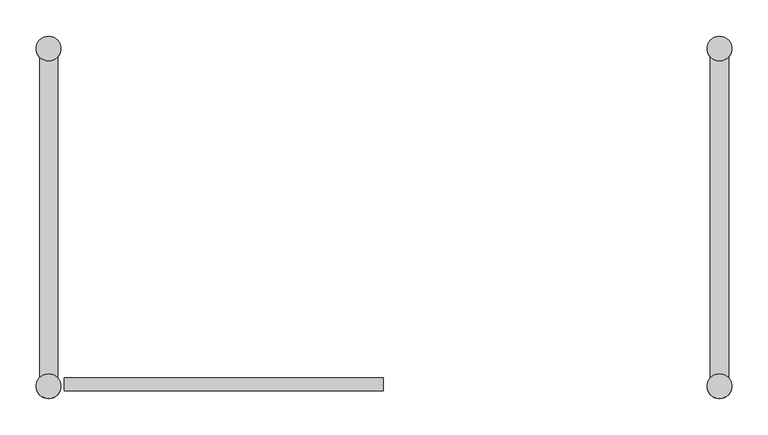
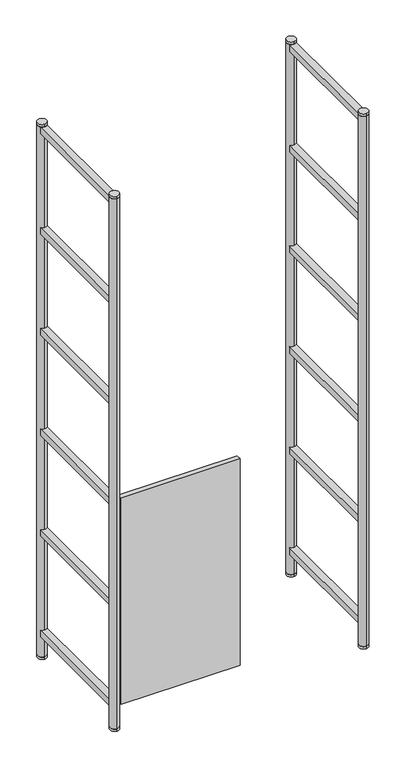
"""IFC4 building model written with IfcOpenShell, lengths in millimetres: furniture geometry, MAKR_TEMPLATE_900mmL1 : MAKR_TEMPLATE_900mmL 2."""

import ifcopenshell
import ifcopenshell.guid

model = None  # the IFC model being written
_history = None  # IfcOwnerHistory: only IFC2X3 demands one
_inside = {}  # id of a spatial element -> (the spatial element, [elements in it])
_under = {}  # id of a project, library or spatial element -> (it, [spatial elements below it])
_declared = {}  # id of a project -> (the project, [libraries it declares])
_typed = {}  # id of a type object -> (the type object, [elements of that type])
_made_of = {}  # id of a material, layer set ... -> (it, [elements and type objects made of it])


def new_model(schema):
    """Start an empty IFC model of exactly this schema.

    Asked for "IFC4X3", IfcOpenShell would pick the latest addendum, in which some entities
    have other attributes; the version numbers below select the first issue.
    IFC2X3 requires an IfcOwnerHistory on every rooted entity: one is made here for all.
    """
    global model, _history
    if schema == "IFC4X3":
        model = ifcopenshell.file(schema_version=(4, 3, 0, 0))
    else:
        model = ifcopenshell.file(schema=schema)
    _inside.clear()
    _under.clear()
    _declared.clear()
    _typed.clear()
    _made_of.clear()
    _history = None
    if model.schema == "IFC2X3":
        org = make("IfcOrganization", Name="unknown")
        user = make(
            "IfcPersonAndOrganization",
            ThePerson=make("IfcPerson", FamilyName="unknown"),
            TheOrganization=org,
        )
        app = make(
            "IfcApplication",
            ApplicationDeveloper=org,
            Version="unknown",
            ApplicationFullName="unknown",
            ApplicationIdentifier="unknown",
        )
        _history = make(
            "IfcOwnerHistory",
            OwningUser=user,
            OwningApplication=app,
            ChangeAction="ADDED",
            CreationDate=0,
        )
    return model


def make(cls, **values):
    """One entity of the class cls with the attributes given. An attribute that is None is left unset."""
    return model.create_entity(
        cls, **{name: value for name, value in values.items() if value is not None}
    )


def rooted(cls, **values):
    """An entity with a GlobalId (a new one), such as an element, a storey or a relation."""
    return make(cls, GlobalId=ifcopenshell.guid.new(), OwnerHistory=_history, **values)


def si_unit(unit_type, name, prefix=None):
    """IfcSIUnit, for example si_unit("LENGTHUNIT", "METRE", prefix="MILLI")."""
    return make("IfcSIUnit", UnitType=unit_type, Prefix=prefix, Name=name)


def assignment(units):
    """IfcUnitAssignment: the units of a project."""
    return None if units is None else make("IfcUnitAssignment", Units=units)


def point(xyz):
    """IfcCartesianPoint."""
    return None if xyz is None else make("IfcCartesianPoint", Coordinates=xyz)


def direction(xyz):
    """IfcDirection."""
    return None if xyz is None else make("IfcDirection", DirectionRatios=xyz)


def frame(location, z_axis=None, x_axis=None):
    """IfcAxis2Placement3D, a coordinate frame: its origin and axes. An axis left out is left unset."""
    return make(
        "IfcAxis2Placement3D",
        Location=point(location),
        Axis=direction(z_axis),
        RefDirection=direction(x_axis),
    )


def frame_2d(location, x_axis=None):
    """IfcAxis2Placement2D, a coordinate frame in the plane: its origin and x axis."""
    return make(
        "IfcAxis2Placement2D", Location=point(location), RefDirection=direction(x_axis)
    )


def origin():
    """The frame at (0, 0, 0) with its axes left unset."""
    return frame((0.0, 0.0, 0.0))


def origin_with_axes():
    """The frame at (0, 0, 0) with the z axis (0, 0, 1) and the x axis (1, 0, 0) written out."""
    return frame((0.0, 0.0, 0.0), z_axis=(0.0, 0.0, 1.0), x_axis=(1.0, 0.0, 0.0))


def place(relative_to, where):
    """IfcLocalPlacement: puts the frame where relative to a parent placement (None: the world)."""
    return make(
        "IfcLocalPlacement", PlacementRelTo=relative_to, RelativePlacement=where
    )


def context(
    kind, dimensions, precision=None, world=None, true_north=None, identifier=None
):
    """IfcGeometricRepresentationContext, for example the 3D "Model" context."""
    return make(
        "IfcGeometricRepresentationContext",
        ContextIdentifier=identifier,
        ContextType=kind,
        CoordinateSpaceDimension=dimensions,
        Precision=precision,
        WorldCoordinateSystem=world,
        TrueNorth=true_north,
    )


def project(units=None, contexts=None):
    """IfcProject with its units and contexts."""
    return rooted(
        "IfcProject",
        Name="project",
        RepresentationContexts=contexts,
        UnitsInContext=assignment(units),
    )


def spatial(cls, under=None, at=None, **own):
    """A site, building, storey or space (cls), placed at a placement, below another one or the project."""
    s = rooted(cls, ObjectPlacement=at, **own)
    if under is not None:
        _under.setdefault(under.id(), (under, []))[1].append(s)
    return s


def polyline(points):
    """IfcPolyline through the points."""
    return make("IfcPolyline", Points=[point(p) for p in points])


def circle_curve(where, radius):
    """IfcCircle in the frame where."""
    return make("IfcCircle", Position=where, Radius=radius)


def trimmed(basis, trim1, trim2, sense, master):
    """IfcTrimmedCurve: the piece of a basis curve between two trims."""
    return make(
        "IfcTrimmedCurve",
        BasisCurve=basis,
        Trim1=trim1,
        Trim2=trim2,
        SenseAgreement=sense,
        MasterRepresentation=master,
    )


def segment(curve, same_sense, transition):
    """IfcCompositeCurveSegment."""
    return make(
        "IfcCompositeCurveSegment",
        Transition=transition,
        SameSense=same_sense,
        ParentCurve=curve,
    )


def composite_curve(segments, self_intersect=None):
    """IfcCompositeCurve: segments joined end to end."""
    return make("IfcCompositeCurve", Segments=segments, SelfIntersect=self_intersect)


def outline(outer, holes=None, kind="AREA"):
    """IfcArbitraryClosedProfileDef: a profile drawn as a closed curve; with holes, ...WithVoids."""
    if holes is None:
        return make("IfcArbitraryClosedProfileDef", ProfileType=kind, OuterCurve=outer)
    return make(
        "IfcArbitraryProfileDefWithVoids",
        ProfileType=kind,
        OuterCurve=outer,
        InnerCurves=holes,
    )


def extrude(swept, where, along, depth):
    """IfcExtrudedAreaSolid: the profile swept, set in the frame where, extruded along a direction by depth."""
    return make(
        "IfcExtrudedAreaSolid",
        SweptArea=swept,
        Position=where,
        ExtrudedDirection=direction(along),
        Depth=depth,
    )


def shape(context_of_items, identifier, shape_type, items):
    """IfcShapeRepresentation: the items that make up one representation, for example the "Body"."""
    return make(
        "IfcShapeRepresentation",
        ContextOfItems=context_of_items,
        RepresentationIdentifier=identifier,
        RepresentationType=shape_type,
        Items=items,
    )


def source(mapping_origin, context_of_items, identifier, shape_type, items):
    """IfcRepresentationMap: a shape defined once, which mapped items show again and again."""
    return make(
        "IfcRepresentationMap",
        MappingOrigin=mapping_origin,
        MappedRepresentation=shape(context_of_items, identifier, shape_type, items),
    )


def transform(
    local_origin,
    x_axis=None,
    y_axis=None,
    z_axis=None,
    scale=None,
    scale2=None,
    scale3=None,
    uniform=True,
):
    """IfcCartesianTransformationOperator3D, or its non-uniform kind. x_axis, y_axis, z_axis: its Axis1, 2, 3."""
    if uniform:
        return make(
            "IfcCartesianTransformationOperator3D",
            Axis1=direction(x_axis),
            Axis2=direction(y_axis),
            LocalOrigin=point(local_origin),
            Scale=scale,
            Axis3=direction(z_axis),
        )
    return make(
        "IfcCartesianTransformationOperator3DnonUniform",
        Axis1=direction(x_axis),
        Axis2=direction(y_axis),
        LocalOrigin=point(local_origin),
        Scale=scale,
        Axis3=direction(z_axis),
        Scale2=scale2,
        Scale3=scale3,
    )


def mapped(mapping_source, mapping_target):
    """IfcMappedItem: shows the shape of a source again, moved by a transform."""
    return make(
        "IfcMappedItem", MappingSource=mapping_source, MappingTarget=mapping_target
    )


def made_of(thing, what):
    """Note that an element or type object is made of a material, layer set ...; save() writes the relation."""
    if what is not None:
        _made_of.setdefault(what.id(), (what, []))[1].append(thing)
    return thing


def element(
    cls,
    number,
    at=None,
    inside=None,
    cuts=None,
    type_object=None,
    material=None,
    context=None,
    identifier="Body",
    shape_type=None,
    held_by="IfcProductDefinitionShape",
    body=None,
    shapes=None,
    **own,
):
    """One element of the class cls, such as IfcWall. Its Tag is "e" and its number.

    at: its placement. inside: the storey or other place that contains it. cuts: it is an
    opening in that element (IfcRelVoidsElement). A single representation is given by context,
    identifier, shape_type and body (its items); several are given by shapes. held_by: the class
    of the entity that holds the representations. save() writes the other relations.
    """
    e = rooted(cls, Tag="e%d" % number, ObjectPlacement=at, **own)
    if body is not None:
        shapes = [shape(context, identifier, shape_type, body)]
    if shapes is not None:
        e.Representation = make(held_by, Representations=shapes)
    if inside is not None:
        _inside.setdefault(inside.id(), (inside, []))[1].append(e)
    if cuts is not None:
        rooted(
            "IfcRelVoidsElement", RelatingBuildingElement=cuts, RelatedOpeningElement=e
        )
    if type_object is not None:
        _typed.setdefault(type_object.id(), (type_object, []))[1].append(e)
    return made_of(e, material)


def aggregate(whole, parts):
    """IfcRelAggregates: a whole, such as a stair, and the parts it consists of."""
    return rooted("IfcRelAggregates", RelatingObject=whole, RelatedObjects=parts)


def save(model, path):
    """Write the relations noted so far, then the file.

    IfcRelAggregates (storeys below a building ...), IfcRelContainedInSpatialStructure (elements
    in a storey), IfcRelDefinesByType, IfcRelAssociatesMaterial and IfcRelDeclares: one each for
    every whole, place, type object, material and project.
    """
    for whole, parts in _under.values():
        aggregate(whole, parts)
    for where, things in _inside.values():
        rooted(
            "IfcRelContainedInSpatialStructure",
            RelatedElements=things,
            RelatingStructure=where,
        )
    for kind, things in _typed.values():
        rooted("IfcRelDefinesByType", RelatedObjects=things, RelatingType=kind)
    for what, things in _made_of.values():
        rooted("IfcRelAssociatesMaterial", RelatedObjects=things, RelatingMaterial=what)
    for by, libraries in _declared.values():
        rooted("IfcRelDeclares", RelatingContext=by, RelatedDefinitions=libraries)
    model.write(path)


def furniture_b6aa44ca(model_context):
    return source(origin(), model_context, "Body", "SweptSolid", [
        extrude(outline(polyline([(-441.0, -221.4782814), (-1.0, -221.4782814), (-1.0, -239.4782814), (-441.0, -239.4782814), (-441.0, -221.4782814)])), frame((0.0, 0.0, 91.0), z_axis=(0.0, 0.0, 1.0), x_axis=(1.0, 0.0, 0.0)), (0.0, 0.0, 1.0), 811.0),
        extrude(outline(composite_curve([segment(polyline([(475.0, 221.4782814), (475.0, -221.4782814)]), True, "CONTINUOUS"), segment(trimmed(circle_curve(frame_2d((462.5, -233.0)), 17.0), [point((475.0, -221.4782814))], [point((450.0, -221.4782814))], True, "CARTESIAN"), True, "CONTINUOUS"), segment(polyline([(450.0, -221.4782814), (450.0, 221.4782814)]), True, "CONTINUOUS"), segment(trimmed(circle_curve(frame_2d((462.5, 233.0)), 17.0), [point((450.0, 221.4782814))], [point((475.0, 221.4782814))], True, "CARTESIAN"), True, "CONTINUOUS")], self_intersect=False)), frame((0.0, 0.0, 2064.0), z_axis=(0.0, 0.0, 1.0), x_axis=(1.0, 0.0, 0.0)), (0.0, 0.0, 1.0), 25.0),
        extrude(outline(composite_curve([segment(polyline([(475.0, 221.4782814), (475.0, -221.4782814)]), True, "CONTINUOUS"), segment(trimmed(circle_curve(frame_2d((462.5, -233.0)), 17.0), [point((475.0, -221.4782814))], [point((450.0, -221.4782814))], True, "CARTESIAN"), True, "CONTINUOUS"), segment(polyline([(450.0, -221.4782814), (450.0, 221.4782814)]), True, "CONTINUOUS"), segment(trimmed(circle_curve(frame_2d((462.5, 233.0)), 17.0), [point((450.0, 221.4782814))], [point((475.0, 221.4782814))], True, "CARTESIAN"), True, "CONTINUOUS")], self_intersect=False)), frame((0.0, 0.0, 1669.0), z_axis=(0.0, 0.0, 1.0), x_axis=(1.0, 0.0, 0.0)), (0.0, 0.0, 1.0), 25.0),
        extrude(outline(composite_curve([segment(polyline([(475.0, 221.4782814), (475.0, -221.4782814)]), True, "CONTINUOUS"), segment(trimmed(circle_curve(frame_2d((462.5, -233.0)), 17.0), [point((475.0, -221.4782814))], [point((450.0, -221.4782814))], True, "CARTESIAN"), True, "CONTINUOUS"), segment(polyline([(450.0, -221.4782814), (450.0, 221.4782814)]), True, "CONTINUOUS"), segment(trimmed(circle_curve(frame_2d((462.5, 233.0)), 17.0), [point((450.0, 221.4782814))], [point((475.0, 221.4782814))], True, "CARTESIAN"), True, "CONTINUOUS")], self_intersect=False)), frame((0.0, 0.0, 1274.0), z_axis=(0.0, 0.0, 1.0), x_axis=(1.0, 0.0, 0.0)), (0.0, 0.0, 1.0), 25.0),
        extrude(outline(composite_curve([segment(polyline([(475.0, 221.4782814), (475.0, -221.4782814)]), True, "CONTINUOUS"), segment(trimmed(circle_curve(frame_2d((462.5, -233.0)), 17.0), [point((475.0, -221.4782814))], [point((450.0, -221.4782814))], True, "CARTESIAN"), True, "CONTINUOUS"), segment(polyline([(450.0, -221.4782814), (450.0, 221.4782814)]), True, "CONTINUOUS"), segment(trimmed(circle_curve(frame_2d((462.5, 233.0)), 17.0), [point((450.0, 221.4782814))], [point((475.0, 221.4782814))], True, "CARTESIAN"), True, "CONTINUOUS")], self_intersect=False)), frame((0.0, 0.0, 879.0), z_axis=(0.0, 0.0, 1.0), x_axis=(1.0, 0.0, 0.0)), (0.0, 0.0, 1.0), 25.0),
        extrude(outline(composite_curve([segment(polyline([(475.0, 221.4782814), (475.0, -221.4782814)]), True, "CONTINUOUS"), segment(trimmed(circle_curve(frame_2d((462.5, -233.0)), 17.0), [point((475.0, -221.4782814))], [point((450.0, -221.4782814))], True, "CARTESIAN"), True, "CONTINUOUS"), segment(polyline([(450.0, -221.4782814), (450.0, 221.4782814)]), True, "CONTINUOUS"), segment(trimmed(circle_curve(frame_2d((462.5, 233.0)), 17.0), [point((450.0, 221.4782814))], [point((475.0, 221.4782814))], True, "CARTESIAN"), True, "CONTINUOUS")], self_intersect=False)), frame((0.0, 0.0, 484.0), z_axis=(0.0, 0.0, 1.0), x_axis=(1.0, 0.0, 0.0)), (0.0, 0.0, 1.0), 25.0),
        extrude(outline(composite_curve([segment(polyline([(475.0, 221.4782814), (475.0, -221.4782814)]), True, "CONTINUOUS"), segment(trimmed(circle_curve(frame_2d((462.5, -233.0)), 17.0), [point((475.0, -221.4782814))], [point((450.0, -221.4782814))], True, "CARTESIAN"), True, "CONTINUOUS"), segment(polyline([(450.0, -221.4782814), (450.0, 221.4782814)]), True, "CONTINUOUS"), segment(trimmed(circle_curve(frame_2d((462.5, 233.0)), 17.0), [point((450.0, 221.4782814))], [point((475.0, 221.4782814))], True, "CARTESIAN"), True, "CONTINUOUS")], self_intersect=False)), frame((0.0, 0.0, 89.0), z_axis=(0.0, 0.0, 1.0), x_axis=(1.0, 0.0, 0.0)), (0.0, 0.0, 1.0), 25.0),
        extrude(outline(composite_curve([segment(trimmed(circle_curve(frame_2d((462.5, -233.0)), 17.0), [point((462.5, -216.0))], [point((462.5, -250.0))], False, "CARTESIAN"), True, "CONTINUOUS"), segment(trimmed(circle_curve(frame_2d((462.5, -233.0)), 17.0), [point((462.5, -250.0))], [point((462.5, -216.0))], False, "CARTESIAN"), True, "CONTINUOUS")], self_intersect=False)), frame((0.0, 0.0, 2091.0), z_axis=(0.0, 0.0, 1.0), x_axis=(1.0, 0.0, 0.0)), (0.0, 0.0, 1.0), 9.0),
        extrude(outline(composite_curve([segment(trimmed(circle_curve(frame_2d((462.5, -233.0)), 17.0), [point((462.5, -216.0))], [point((462.5, -250.0))], False, "CARTESIAN"), True, "CONTINUOUS"), segment(trimmed(circle_curve(frame_2d((462.5, -233.0)), 17.0), [point((462.5, -250.0))], [point((462.5, -216.0))], False, "CARTESIAN"), True, "CONTINUOUS")], self_intersect=False)), origin_with_axes(), (0.0, 0.0, 1.0), 9.0),
        extrude(outline(composite_curve([segment(trimmed(circle_curve(frame_2d((462.5, -233.0)), 17.0), [point((462.5, -216.0))], [point((462.5, -250.0))], False, "CARTESIAN"), True, "CONTINUOUS"), segment(trimmed(circle_curve(frame_2d((462.5, -233.0)), 17.0), [point((462.5, -250.0))], [point((462.5, -216.0))], False, "CARTESIAN"), True, "CONTINUOUS")], self_intersect=False)), frame((0.0, 0.0, 9.0), z_axis=(0.0, 0.0, 1.0), x_axis=(1.0, 0.0, 0.0)), (0.0, 0.0, 1.0), 2082.0),
        extrude(outline(composite_curve([segment(trimmed(circle_curve(frame_2d((462.5, 233.0)), 17.0), [point((462.5, 216.0))], [point((462.5, 250.0))], False, "CARTESIAN"), True, "CONTINUOUS"), segment(trimmed(circle_curve(frame_2d((462.5, 233.0)), 17.0), [point((462.5, 250.0))], [point((462.5, 216.0))], False, "CARTESIAN"), True, "CONTINUOUS")], self_intersect=False)), frame((0.0, 0.0, 2091.0), z_axis=(0.0, 0.0, 1.0), x_axis=(1.0, 0.0, 0.0)), (0.0, 0.0, 1.0), 9.0),
        extrude(outline(composite_curve([segment(trimmed(circle_curve(frame_2d((462.5, 233.0)), 17.0), [point((462.5, 216.0))], [point((462.5, 250.0))], False, "CARTESIAN"), True, "CONTINUOUS"), segment(trimmed(circle_curve(frame_2d((462.5, 233.0)), 17.0), [point((462.5, 250.0))], [point((462.5, 216.0))], False, "CARTESIAN"), True, "CONTINUOUS")], self_intersect=False)), origin_with_axes(), (0.0, 0.0, 1.0), 9.0),
        extrude(outline(composite_curve([segment(trimmed(circle_curve(frame_2d((462.5, 233.0)), 17.0), [point((462.5, 216.0))], [point((462.5, 250.0))], False, "CARTESIAN"), True, "CONTINUOUS"), segment(trimmed(circle_curve(frame_2d((462.5, 233.0)), 17.0), [point((462.5, 250.0))], [point((462.5, 216.0))], False, "CARTESIAN"), True, "CONTINUOUS")], self_intersect=False)), frame((0.0, 0.0, 9.0), z_axis=(0.0, 0.0, 1.0), x_axis=(1.0, 0.0, 0.0)), (0.0, 0.0, 1.0), 2082.0),
        extrude(outline(composite_curve([segment(trimmed(circle_curve(frame_2d((-462.5, 233.0)), 17.0), [point((-475.0, 221.4782814))], [point((-450.0, 221.4782814))], True, "CARTESIAN"), True, "CONTINUOUS"), segment(polyline([(-450.0, 221.4782814), (-450.0, -221.4782814)]), True, "CONTINUOUS"), segment(trimmed(circle_curve(frame_2d((-462.5, -233.0)), 17.0), [point((-450.0, -221.4782814))], [point((-475.0, -221.4782814))], True, "CARTESIAN"), True, "CONTINUOUS"), segment(polyline([(-475.0, -221.4782814), (-475.0, 221.4782814)]), True, "CONTINUOUS")], self_intersect=False)), frame((0.0, 0.0, 2064.0), z_axis=(0.0, 0.0, 1.0), x_axis=(1.0, 0.0, 0.0)), (0.0, 0.0, 1.0), 25.0),
        extrude(outline(composite_curve([segment(trimmed(circle_curve(frame_2d((-462.5, 233.0)), 17.0), [point((-475.0, 221.4782814))], [point((-450.0, 221.4782814))], True, "CARTESIAN"), True, "CONTINUOUS"), segment(polyline([(-450.0, 221.4782814), (-450.0, -221.4782814)]), True, "CONTINUOUS"), segment(trimmed(circle_curve(frame_2d((-462.5, -233.0)), 17.0), [point((-450.0, -221.4782814))], [point((-475.0, -221.4782814))], True, "CARTESIAN"), True, "CONTINUOUS"), segment(polyline([(-475.0, -221.4782814), (-475.0, 221.4782814)]), True, "CONTINUOUS")], self_intersect=False)), frame((0.0, 0.0, 1669.0), z_axis=(0.0, 0.0, 1.0), x_axis=(1.0, 0.0, 0.0)), (0.0, 0.0, 1.0), 25.0),
        extrude(outline(composite_curve([segment(trimmed(circle_curve(frame_2d((-462.5, 233.0)), 17.0), [point((-475.0, 221.4782814))], [point((-450.0, 221.4782814))], True, "CARTESIAN"), True, "CONTINUOUS"), segment(polyline([(-450.0, 221.4782814), (-450.0, -221.4782814)]), True, "CONTINUOUS"), segment(trimmed(circle_curve(frame_2d((-462.5, -233.0)), 17.0), [point((-450.0, -221.4782814))], [point((-475.0, -221.4782814))], True, "CARTESIAN"), True, "CONTINUOUS"), segment(polyline([(-475.0, -221.4782814), (-475.0, 221.4782814)]), True, "CONTINUOUS")], self_intersect=False)), frame((0.0, 0.0, 1274.0), z_axis=(0.0, 0.0, 1.0), x_axis=(1.0, 0.0, 0.0)), (0.0, 0.0, 1.0), 25.0),
        extrude(outline(composite_curve([segment(trimmed(circle_curve(frame_2d((-462.5, 233.0)), 17.0), [point((-475.0, 221.4782814))], [point((-450.0, 221.4782814))], True, "CARTESIAN"), True, "CONTINUOUS"), segment(polyline([(-450.0, 221.4782814), (-450.0, -221.4782814)]), True, "CONTINUOUS"), segment(trimmed(circle_curve(frame_2d((-462.5, -233.0)), 17.0), [point((-450.0, -221.4782814))], [point((-475.0, -221.4782814))], True, "CARTESIAN"), True, "CONTINUOUS"), segment(polyline([(-475.0, -221.4782814), (-475.0, 221.4782814)]), True, "CONTINUOUS")], self_intersect=False)), frame((0.0, 0.0, 879.0), z_axis=(0.0, 0.0, 1.0), x_axis=(1.0, 0.0, 0.0)), (0.0, 0.0, 1.0), 25.0),
        extrude(outline(composite_curve([segment(trimmed(circle_curve(frame_2d((-462.5, 233.0)), 17.0), [point((-475.0, 221.4782814))], [point((-450.0, 221.4782814))], True, "CARTESIAN"), True, "CONTINUOUS"), segment(polyline([(-450.0, 221.4782814), (-450.0, -221.4782814)]), True, "CONTINUOUS"), segment(trimmed(circle_curve(frame_2d((-462.5, -233.0)), 17.0), [point((-450.0, -221.4782814))], [point((-475.0, -221.4782814))], True, "CARTESIAN"), True, "CONTINUOUS"), segment(polyline([(-475.0, -221.4782814), (-475.0, 221.4782814)]), True, "CONTINUOUS")], self_intersect=False)), frame((0.0, 0.0, 484.0), z_axis=(0.0, 0.0, 1.0), x_axis=(1.0, 0.0, 0.0)), (0.0, 0.0, 1.0), 25.0),
        extrude(outline(composite_curve([segment(trimmed(circle_curve(frame_2d((-462.5, 233.0)), 17.0), [point((-475.0, 221.4782814))], [point((-450.0, 221.4782814))], True, "CARTESIAN"), True, "CONTINUOUS"), segment(polyline([(-450.0, 221.4782814), (-450.0, -221.4782814)]), True, "CONTINUOUS"), segment(trimmed(circle_curve(frame_2d((-462.5, -233.0)), 17.0), [point((-450.0, -221.4782814))], [point((-475.0, -221.4782814))], True, "CARTESIAN"), True, "CONTINUOUS"), segment(polyline([(-475.0, -221.4782814), (-475.0, 221.4782814)]), True, "CONTINUOUS")], self_intersect=False)), frame((0.0, 0.0, 89.0), z_axis=(0.0, 0.0, 1.0), x_axis=(1.0, 0.0, 0.0)), (0.0, 0.0, 1.0), 25.0),
        extrude(outline(composite_curve([segment(trimmed(circle_curve(frame_2d((-462.5, -233.0)), 17.0), [point((-462.5, -216.0))], [point((-462.5, -250.0))], False, "CARTESIAN"), True, "CONTINUOUS"), segment(trimmed(circle_curve(frame_2d((-462.5, -233.0)), 17.0), [point((-462.5, -250.0))], [point((-462.5, -216.0))], False, "CARTESIAN"), True, "CONTINUOUS")], self_intersect=False)), frame((0.0, 0.0, 2091.0), z_axis=(0.0, 0.0, 1.0), x_axis=(1.0, 0.0, 0.0)), (0.0, 0.0, 1.0), 9.0),
        extrude(outline(composite_curve([segment(trimmed(circle_curve(frame_2d((-462.5, -233.0)), 17.0), [point((-462.5, -216.0))], [point((-462.5, -250.0))], False, "CARTESIAN"), True, "CONTINUOUS"), segment(trimmed(circle_curve(frame_2d((-462.5, -233.0)), 17.0), [point((-462.5, -250.0))], [point((-462.5, -216.0))], False, "CARTESIAN"), True, "CONTINUOUS")], self_intersect=False)), origin_with_axes(), (0.0, 0.0, 1.0), 9.0),
        extrude(outline(composite_curve([segment(trimmed(circle_curve(frame_2d((-462.5, -233.0)), 17.0), [point((-462.5, -216.0))], [point((-462.5, -250.0))], False, "CARTESIAN"), True, "CONTINUOUS"), segment(trimmed(circle_curve(frame_2d((-462.5, -233.0)), 17.0), [point((-462.5, -250.0))], [point((-462.5, -216.0))], False, "CARTESIAN"), True, "CONTINUOUS")], self_intersect=False)), frame((0.0, 0.0, 9.0), z_axis=(0.0, 0.0, 1.0), x_axis=(1.0, 0.0, 0.0)), (0.0, 0.0, 1.0), 2082.0),
        extrude(outline(composite_curve([segment(trimmed(circle_curve(frame_2d((-462.5, 233.0)), 17.0), [point((-462.5, 216.0))], [point((-462.5, 250.0))], False, "CARTESIAN"), True, "CONTINUOUS"), segment(trimmed(circle_curve(frame_2d((-462.5, 233.0)), 17.0), [point((-462.5, 250.0))], [point((-462.5, 216.0))], False, "CARTESIAN"), True, "CONTINUOUS")], self_intersect=False)), frame((0.0, 0.0, 2091.0), z_axis=(0.0, 0.0, 1.0), x_axis=(1.0, 0.0, 0.0)), (0.0, 0.0, 1.0), 9.0),
        extrude(outline(composite_curve([segment(trimmed(circle_curve(frame_2d((-462.5, 233.0)), 17.0), [point((-462.5, 216.0))], [point((-462.5, 250.0))], False, "CARTESIAN"), True, "CONTINUOUS"), segment(trimmed(circle_curve(frame_2d((-462.5, 233.0)), 17.0), [point((-462.5, 250.0))], [point((-462.5, 216.0))], False, "CARTESIAN"), True, "CONTINUOUS")], self_intersect=False)), origin_with_axes(), (0.0, 0.0, 1.0), 9.0),
        extrude(outline(composite_curve([segment(trimmed(circle_curve(frame_2d((-462.5, 233.0)), 17.0), [point((-462.5, 216.0))], [point((-462.5, 250.0))], False, "CARTESIAN"), True, "CONTINUOUS"), segment(trimmed(circle_curve(frame_2d((-462.5, 233.0)), 17.0), [point((-462.5, 250.0))], [point((-462.5, 216.0))], False, "CARTESIAN"), True, "CONTINUOUS")], self_intersect=False)), frame((0.0, 0.0, 9.0), z_axis=(0.0, 0.0, 1.0), x_axis=(1.0, 0.0, 0.0)), (0.0, 0.0, 1.0), 2082.0),
    ])


if __name__ == "__main__":
    model = new_model("IFC4")
    model_context = context("Model", 3, world=origin())
    ifc_project = project(units=[si_unit("LENGTHUNIT", "METRE", prefix="MILLI")], contexts=[model_context])
    site = spatial("IfcSite", under=ifc_project)
    building = spatial("IfcBuilding", under=site)
    placement = place(None, origin())
    furniture_shape = furniture_b6aa44ca(model_context)
    element("IfcFurniture", 1, ObjectType="MAKR_TEMPLATE_900mmL1 : MAKR_TEMPLATE_900mmL 2", at=placement, inside=building, context=model_context, shape_type="MappedRepresentation", body=[
        mapped(furniture_shape, transform((0.0, 0.0, 0.0), x_axis=(1.0, 0.0, 0.0), y_axis=(0.0, 1.0, 0.0), z_axis=(0.0, 0.0, 1.0))),
    ])
    save(model, "model.ifc")
